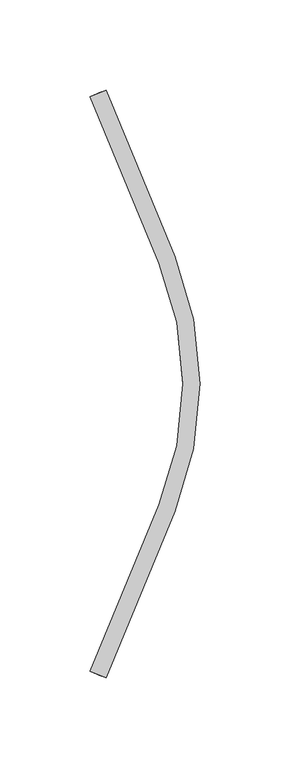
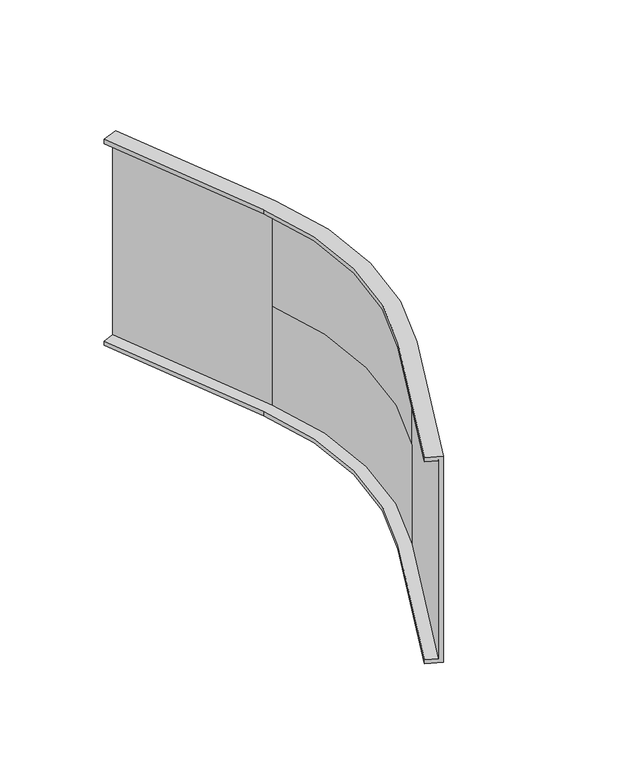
"""IFC4 building model written with IfcOpenShell, lengths in millimetres: cable carrier fitting geometry, CCT_Hyperline_FBTR-ERS45-CVR Крышка на угол 45° внешний (вниз) для оптического лотка : Крышка на угол 45° внешний (вниз) для оптического лотка."""

import ifcopenshell
import ifcopenshell.guid

model = None  # the IFC model being written
_history = None  # IfcOwnerHistory: only IFC2X3 demands one
_inside = {}  # id of a spatial element -> (the spatial element, [elements in it])
_under = {}  # id of a project, library or spatial element -> (it, [spatial elements below it])
_declared = {}  # id of a project -> (the project, [libraries it declares])
_typed = {}  # id of a type object -> (the type object, [elements of that type])
_made_of = {}  # id of a material, layer set ... -> (it, [elements and type objects made of it])


def new_model(schema):
    """Start an empty IFC model of exactly this schema.

    Asked for "IFC4X3", IfcOpenShell would pick the latest addendum, in which some entities
    have other attributes; the version numbers below select the first issue.
    IFC2X3 requires an IfcOwnerHistory on every rooted entity: one is made here for all.
    """
    global model, _history
    if schema == "IFC4X3":
        model = ifcopenshell.file(schema_version=(4, 3, 0, 0))
    else:
        model = ifcopenshell.file(schema=schema)
    _inside.clear()
    _under.clear()
    _declared.clear()
    _typed.clear()
    _made_of.clear()
    _history = None
    if model.schema == "IFC2X3":
        org = make("IfcOrganization", Name="unknown")
        user = make(
            "IfcPersonAndOrganization",
            ThePerson=make("IfcPerson", FamilyName="unknown"),
            TheOrganization=org,
        )
        app = make(
            "IfcApplication",
            ApplicationDeveloper=org,
            Version="unknown",
            ApplicationFullName="unknown",
            ApplicationIdentifier="unknown",
        )
        _history = make(
            "IfcOwnerHistory",
            OwningUser=user,
            OwningApplication=app,
            ChangeAction="ADDED",
            CreationDate=0,
        )
    return model


def make(cls, **values):
    """One entity of the class cls with the attributes given. An attribute that is None is left unset."""
    return model.create_entity(
        cls, **{name: value for name, value in values.items() if value is not None}
    )


def rooted(cls, **values):
    """An entity with a GlobalId (a new one), such as an element, a storey or a relation."""
    return make(cls, GlobalId=ifcopenshell.guid.new(), OwnerHistory=_history, **values)


def si_unit(unit_type, name, prefix=None):
    """IfcSIUnit, for example si_unit("LENGTHUNIT", "METRE", prefix="MILLI")."""
    return make("IfcSIUnit", UnitType=unit_type, Prefix=prefix, Name=name)


def assignment(units):
    """IfcUnitAssignment: the units of a project."""
    return None if units is None else make("IfcUnitAssignment", Units=units)


def point(xyz):
    """IfcCartesianPoint."""
    return None if xyz is None else make("IfcCartesianPoint", Coordinates=xyz)


def direction(xyz):
    """IfcDirection."""
    return None if xyz is None else make("IfcDirection", DirectionRatios=xyz)


def frame(location, z_axis=None, x_axis=None):
    """IfcAxis2Placement3D, a coordinate frame: its origin and axes. An axis left out is left unset."""
    return make(
        "IfcAxis2Placement3D",
        Location=point(location),
        Axis=direction(z_axis),
        RefDirection=direction(x_axis),
    )


def origin():
    """The frame at (0, 0, 0) with its axes left unset."""
    return frame((0.0, 0.0, 0.0))


def place(relative_to, where):
    """IfcLocalPlacement: puts the frame where relative to a parent placement (None: the world)."""
    return make(
        "IfcLocalPlacement", PlacementRelTo=relative_to, RelativePlacement=where
    )


def context(
    kind, dimensions, precision=None, world=None, true_north=None, identifier=None
):
    """IfcGeometricRepresentationContext, for example the 3D "Model" context."""
    return make(
        "IfcGeometricRepresentationContext",
        ContextIdentifier=identifier,
        ContextType=kind,
        CoordinateSpaceDimension=dimensions,
        Precision=precision,
        WorldCoordinateSystem=world,
        TrueNorth=true_north,
    )


def project(units=None, contexts=None):
    """IfcProject with its units and contexts."""
    return rooted(
        "IfcProject",
        Name="project",
        RepresentationContexts=contexts,
        UnitsInContext=assignment(units),
    )


def spatial(cls, under=None, at=None, **own):
    """A site, building, storey or space (cls), placed at a placement, below another one or the project."""
    s = rooted(cls, ObjectPlacement=at, **own)
    if under is not None:
        _under.setdefault(under.id(), (under, []))[1].append(s)
    return s


def polyline(points):
    """IfcPolyline through the points."""
    return make("IfcPolyline", Points=[point(p) for p in points])


def circle_curve(where, radius):
    """IfcCircle in the frame where."""
    return make("IfcCircle", Position=where, Radius=radius)


def shape(context_of_items, identifier, shape_type, items):
    """IfcShapeRepresentation: the items that make up one representation, for example the "Body"."""
    return make(
        "IfcShapeRepresentation",
        ContextOfItems=context_of_items,
        RepresentationIdentifier=identifier,
        RepresentationType=shape_type,
        Items=items,
    )


def source(mapping_origin, context_of_items, identifier, shape_type, items):
    """IfcRepresentationMap: a shape defined once, which mapped items show again and again."""
    return make(
        "IfcRepresentationMap",
        MappingOrigin=mapping_origin,
        MappedRepresentation=shape(context_of_items, identifier, shape_type, items),
    )


def transform(
    local_origin,
    x_axis=None,
    y_axis=None,
    z_axis=None,
    scale=None,
    scale2=None,
    scale3=None,
    uniform=True,
):
    """IfcCartesianTransformationOperator3D, or its non-uniform kind. x_axis, y_axis, z_axis: its Axis1, 2, 3."""
    if uniform:
        return make(
            "IfcCartesianTransformationOperator3D",
            Axis1=direction(x_axis),
            Axis2=direction(y_axis),
            LocalOrigin=point(local_origin),
            Scale=scale,
            Axis3=direction(z_axis),
        )
    return make(
        "IfcCartesianTransformationOperator3DnonUniform",
        Axis1=direction(x_axis),
        Axis2=direction(y_axis),
        LocalOrigin=point(local_origin),
        Scale=scale,
        Axis3=direction(z_axis),
        Scale2=scale2,
        Scale3=scale3,
    )


def mapped(mapping_source, mapping_target):
    """IfcMappedItem: shows the shape of a source again, moved by a transform."""
    return make(
        "IfcMappedItem", MappingSource=mapping_source, MappingTarget=mapping_target
    )


def made_of(thing, what):
    """Note that an element or type object is made of a material, layer set ...; save() writes the relation."""
    if what is not None:
        _made_of.setdefault(what.id(), (what, []))[1].append(thing)
    return thing


def element(
    cls,
    number,
    at=None,
    inside=None,
    cuts=None,
    type_object=None,
    material=None,
    context=None,
    identifier="Body",
    shape_type=None,
    held_by="IfcProductDefinitionShape",
    body=None,
    shapes=None,
    **own,
):
    """One element of the class cls, such as IfcWall. Its Tag is "e" and its number.

    at: its placement. inside: the storey or other place that contains it. cuts: it is an
    opening in that element (IfcRelVoidsElement). A single representation is given by context,
    identifier, shape_type and body (its items); several are given by shapes. held_by: the class
    of the entity that holds the representations. save() writes the other relations.
    """
    e = rooted(cls, Tag="e%d" % number, ObjectPlacement=at, **own)
    if body is not None:
        shapes = [shape(context, identifier, shape_type, body)]
    if shapes is not None:
        e.Representation = make(held_by, Representations=shapes)
    if inside is not None:
        _inside.setdefault(inside.id(), (inside, []))[1].append(e)
    if cuts is not None:
        rooted(
            "IfcRelVoidsElement", RelatingBuildingElement=cuts, RelatedOpeningElement=e
        )
    if type_object is not None:
        _typed.setdefault(type_object.id(), (type_object, []))[1].append(e)
    return made_of(e, material)


def aggregate(whole, parts):
    """IfcRelAggregates: a whole, such as a stair, and the parts it consists of."""
    return rooted("IfcRelAggregates", RelatingObject=whole, RelatedObjects=parts)


def save(model, path):
    """Write the relations noted so far, then the file.

    IfcRelAggregates (storeys below a building ...), IfcRelContainedInSpatialStructure (elements
    in a storey), IfcRelDefinesByType, IfcRelAssociatesMaterial and IfcRelDeclares: one each for
    every whole, place, type object, material and project.
    """
    for whole, parts in _under.values():
        aggregate(whole, parts)
    for where, things in _inside.values():
        rooted(
            "IfcRelContainedInSpatialStructure",
            RelatedElements=things,
            RelatingStructure=where,
        )
    for kind, things in _typed.values():
        rooted("IfcRelDefinesByType", RelatedObjects=things, RelatingType=kind)
    for what, things in _made_of.values():
        rooted("IfcRelAssociatesMaterial", RelatedObjects=things, RelatingMaterial=what)
    for by, libraries in _declared.values():
        rooted("IfcRelDeclares", RelatingContext=by, RelatedDefinitions=libraries)
    model.write(path)


def plane_surface(at):
    """IfcPlane: the flat surface through the origin of the frame at, square to its z axis."""
    return make("IfcPlane", Position=at)


def cylinder_surface(at, radius):
    """IfcCylindricalSurface: all points at the distance radius from the z axis of the frame at."""
    return make("IfcCylindricalSurface", Position=at, Radius=radius)


def revolved_surface(curve, axis_point, axis_direction):
    """IfcSurfaceOfRevolution: the curve turned about the line through axis_point along axis_direction."""
    return make(
        "IfcSurfaceOfRevolution",
        SweptCurve=make("IfcArbitraryOpenProfileDef", ProfileType="CURVE", Curve=curve),
        AxisPosition=make("IfcAxis1Placement", Location=point(axis_point), Axis=direction(axis_direction)),
    )


def advanced_brep(points, edges, surfaces, faces):
    """IfcAdvancedBrep: a solid bounded by faces that lie on surfaces and meet in shared edges.

    An edge is (start, end): straight between two places in points (the first is 0);
    or (start, end, curve); or (start, end, curve, False) where it runs against its curve.
    A face is (place in surfaces, loops), or (place, loops, False) where it looks against
    its surface's normal. A loop lists edges by number (the first is 1), with a minus sign
    where the edge is run from its end to its start. The first loop is the outer one.
    """
    corners = [point(p) for p in points]
    vertices = [make("IfcVertexPoint", VertexGeometry=c) for c in corners]
    made = []
    for start, end, *more in edges:
        made.append(
            make(
                "IfcEdgeCurve",
                EdgeStart=vertices[start],
                EdgeEnd=vertices[end],
                EdgeGeometry=more[0] if more else make("IfcPolyline", Points=[corners[start], corners[end]]),
                SameSense=more[1] if len(more) > 1 else True,
            )
        )
    hull = []
    for where, loops, *sense in faces:
        bounds = []
        for j, loop in enumerate(loops):
            ring = [make("IfcOrientedEdge", EdgeElement=made[abs(k) - 1], Orientation=k > 0) for k in loop]
            bounds.append(
                make(
                    "IfcFaceOuterBound" if j == 0 else "IfcFaceBound",
                    Bound=make("IfcEdgeLoop", EdgeList=ring),
                    Orientation=True,
                )
            )
        hull.append(make("IfcAdvancedFace", Bounds=bounds, FaceSurface=surfaces[where], SameSense=sense[0] if sense else True))
    return make("IfcAdvancedBrep", Outer=make("IfcClosedShell", CfsFaces=hull))


def cable_carrier_fitting_9f29c945(model_context):
    return source(origin(), model_context, "Body", "AdvancedBrep", [
        advanced_brep(
        [(106.4671567, 150.6353776, 60.0), (100.0, 147.9565936, 60.0), (100.0, 147.9565936, 62.54), (108.8138107, 151.6073935, 62.54), (108.8138107, 151.6073935, -62.54), (100.0, 147.9565936, -62.54), (100.0, 147.9565936, -60.0), (106.4671567, 150.6353776, -60.0), (138.2683432, 55.5686403, -60.0), (138.2683432, -78.370561, -60.0), (100.0, -170.7585143, -60.0), (106.4671567, -173.4372983, -60.0), (144.7355, -81.049345, -60.0), (144.7355, 58.2474243, -60.0), (138.2683432, 55.5686403, -62.54), (147.082154, 59.2194402, -62.54), (147.082154, -82.021361, -62.54), (108.8138107, -174.4093142, -62.54), (100.0, -170.7585143, -62.54), (138.2683432, -78.370561, -62.54), (147.082154, 59.2194402, 62.54), (147.082154, 59.2194402, 0.0), (144.7355, 58.2474243, 0.0), (144.7355, 58.2474243, 60.0), (147.082154, -82.021361, 0.0), (144.7355, -81.049345, 0.0), (108.8138107, -174.4093142, 62.54), (100.0, -170.7585143, 62.54), (100.0, -170.7585143, 60.0), (106.4671567, -173.4372983, 60.0), (147.082154, -82.021361, 62.54), (144.7355, -81.049345, 60.0), (138.2683432, -78.370561, 60.0), (138.2683432, 55.5686403, 60.0), (138.2683432, 55.5686403, 62.54), (138.2683432, -78.370561, 62.54)],
        [
            (0, 1),
            (1, 2),
            (2, 3),
            (3, 4),
            (4, 5),
            (5, 6),
            (6, 7),
            (7, 0),
            (6, 8),
            (8, 9, circle_curve(frame((-23.410575, -11.4009604, -60.0), z_axis=(0.0, 0.0, -1.0), x_axis=(0.9238795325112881, 0.38268343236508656, 0.0)), 175.0)),
            (9, 10),
            (10, 11),
            (11, 12),
            (12, 13, circle_curve(frame((-23.410575, -11.4009604, -60.0), z_axis=(0.0, 0.0, 1.0), x_axis=(0.9238795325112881, 0.38268343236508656, 0.0)), 182.0)),
            (13, 7),
            (5, 14),
            (14, 8),
            (4, 15),
            (15, 16, circle_curve(frame((-23.410575, -11.4009604, -62.54), z_axis=(0.0, 0.0, -1.0), x_axis=(0.9238795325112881, 0.38268343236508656, 0.0)), 184.54)),
            (16, 17),
            (17, 18),
            (18, 19),
            (19, 14, circle_curve(frame((-23.410575, -11.4009604, -62.54), z_axis=(0.0, 0.0, 1.0), x_axis=(0.9238795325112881, 0.38268343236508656, 0.0)), 175.0)),
            (3, 20),
            (20, 21),
            (21, 15),
            (13, 22),
            (22, 23),
            (23, 0),
            (19, 9),
            (21, 24, circle_curve(frame((-23.410575, -11.4009604, 0.0), z_axis=(0.0, 0.0, -1.0), x_axis=(0.9238795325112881, 0.38268343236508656, 0.0)), 184.54)),
            (24, 16),
            (12, 25),
            (25, 22, circle_curve(frame((-23.410575, -11.4009604, 0.0), z_axis=(0.0, 0.0, 1.0), x_axis=(0.9238795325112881, 0.38268343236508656, 0.0)), 182.0)),
            (10, 18),
            (17, 26),
            (26, 27),
            (27, 28),
            (28, 29),
            (29, 11),
            (24, 30),
            (30, 26),
            (29, 31),
            (31, 25),
            (23, 31, circle_curve(frame((-23.410575, -11.4009604, 60.0), z_axis=(0.0, 0.0, -1.0), x_axis=(0.9238795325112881, 0.3826834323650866, 0.0)), 182.0)),
            (28, 32),
            (32, 33, circle_curve(frame((-23.410575, -11.4009604, 60.0), z_axis=(0.0, 0.0, 1.0), x_axis=(0.9238795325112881, 0.3826834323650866, 0.0)), 175.0)),
            (33, 1),
            (33, 34),
            (34, 2),
            (34, 35, circle_curve(frame((-23.410575, -11.4009604, 62.54), z_axis=(0.0, 0.0, -1.0), x_axis=(0.9238795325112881, 0.3826834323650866, 0.0)), 175.0)),
            (35, 27),
            (30, 20, circle_curve(frame((-23.410575, -11.4009604, 62.54), z_axis=(0.0, 0.0, 1.0), x_axis=(0.9238795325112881, 0.3826834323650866, 0.0)), 184.54)),
            (32, 35),
        ],
        [
            plane_surface(frame((104.6193977, 149.8700107, -55.0), z_axis=(-0.38268343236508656, 0.9238795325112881, 0.0), x_axis=(0.0, 0.0, 1.0))),
            plane_surface(frame((100.0, 147.9565936, -60.0), z_axis=(0.0, 0.0, 1.0), x_axis=(0.38268343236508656, -0.9238795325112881, 0.0))),
            plane_surface(frame((100.0, 147.9565936, -62.54), z_axis=(-0.9238795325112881, -0.38268343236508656, 0.0), x_axis=(0.38268343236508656, -0.9238795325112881, 0.0))),
            plane_surface(frame((108.8138107, 151.6073935, -62.54), z_axis=(0.0, 0.0, -1.0), x_axis=(0.38268343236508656, -0.9238795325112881, 0.0))),
            plane_surface(frame((108.8138107, 151.6073935, 0.0), z_axis=(0.9238795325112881, 0.38268343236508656, 0.0), x_axis=(0.38268343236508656, -0.9238795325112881, 0.0))),
            plane_surface(frame((106.4671567, 150.6353776, -60.0), z_axis=(-0.9238795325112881, -0.38268343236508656, 0.0), x_axis=(0.38268343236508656, -0.9238795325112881, 0.0))),
            revolved_surface(polyline([(138.26834318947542, 55.568640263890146, -62.54), (138.26834318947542, 55.568640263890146, -60.0)]), (-23.410575, -11.4009604, -55.0), (0.0, 0.0, -1.0)),
            cylinder_surface(frame((-23.410575, -11.4009604, -55.0), z_axis=(0.0, 0.0, -1.0), x_axis=(0.9238795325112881, 0.38268343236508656, 0.0)), 184.54),
            revolved_surface(polyline([(144.73549991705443, 58.24742429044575, -60.0), (144.73549991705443, 58.24742429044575, 0.0)]), (-23.410575, -11.4009604, -55.0), (0.0, 0.0, -1.0)),
            plane_surface(frame((104.6193977, -172.6719314, -55.0), z_axis=(-0.3826834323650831, -0.9238795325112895, 0.0), x_axis=(0.0, 0.0, 1.0))),
            plane_surface(frame((138.2683432, -78.370561, -62.54), z_axis=(-0.9238795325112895, 0.3826834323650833, 0.0), x_axis=(-0.3826834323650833, -0.9238795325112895, 0.0))),
            plane_surface(frame((147.082154, -82.021361, 0.0), z_axis=(0.9238795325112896, -0.382683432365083, 0.0), x_axis=(-0.382683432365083, -0.9238795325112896, 0.0))),
            plane_surface(frame((144.7355, -81.049345, -60.0), z_axis=(-0.9238795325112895, 0.3826834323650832, 0.0), x_axis=(-0.3826834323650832, -0.9238795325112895, 0.0))),
            plane_surface(frame((106.4671567, 150.6353776, 60.0), z_axis=(0.0, 0.0, -1.0), x_axis=(0.38268343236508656, -0.9238795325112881, 0.0))),
            plane_surface(frame((100.0, 147.9565936, 60.0), z_axis=(-0.9238795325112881, -0.38268343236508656, 0.0), x_axis=(0.38268343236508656, -0.9238795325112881, 0.0))),
            plane_surface(frame((100.0, 147.9565936, 62.54), z_axis=(0.0, 0.0, 1.0), x_axis=(0.38268343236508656, -0.9238795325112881, 0.0))),
            revolved_surface(polyline([(138.26834318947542, 55.56864026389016, 60.0), (138.26834318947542, 55.56864026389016, 62.54)]), (-23.410575, -11.4009604, 55.0), (0.0, 0.0, -1.0)),
            cylinder_surface(frame((-23.410575, -11.4009604, 55.0), z_axis=(0.0, 0.0, -1.0), x_axis=(0.9238795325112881, 0.3826834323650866, 0.0)), 184.54),
            revolved_surface(polyline([(144.73549991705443, 58.247424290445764, 0.0), (144.73549991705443, 58.247424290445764, 60.0)]), (-23.410575, -11.4009604, 55.0), (0.0, 0.0, -1.0)),
            plane_surface(frame((138.2683432, -78.370561, 60.0), z_axis=(-0.9238795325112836, 0.38268343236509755, 0.0), x_axis=(-0.38268343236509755, -0.9238795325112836, 0.0))),
        ],
        [
            (0, [[1, 2, 3, 4, 5, 6, 7, 8]]),
            (1, [[-7, 9, 10, 11, 12, 13, 14, 15]]),
            (2, [[-6, 16, 17, -9]]),
            (3, [[-5, 18, 19, 20, 21, 22, 23, -16]]),
            (4, [[-4, 24, 25, 26, -18]]),
            (5, [[-8, -15, 27, 28, 29]]),
            (6, [[-10, -17, -23, 30]]),
            (7, [[-19, -26, 31, 32]]),
            (8, [[-14, 33, 34, -27]]),
            (9, [[-12, 35, -21, 36, 37, 38, 39, 40]]),
            (10, [[-11, -30, -22, -35]]),
            (11, [[-36, -20, -32, 41, 42]]),
            (12, [[-13, -40, 43, 44, -33]]),
            (13, [[-1, -29, 45, -43, -39, 46, 47, 48]]),
            (14, [[-2, -48, 49, 50]]),
            (15, [[-3, -50, 51, 52, -37, -42, 53, -24]]),
            (16, [[-47, 54, -51, -49]]),
            (17, [[-53, -41, -31, -25]]),
            (18, [[-45, -28, -34, -44]]),
            (19, [[-46, -38, -52, -54]]),
        ],
    ),
    ])


if __name__ == "__main__":
    model = new_model("IFC4")
    model_context = context("Model", 3, world=origin())
    ifc_project = project(units=[si_unit("LENGTHUNIT", "METRE", prefix="MILLI")], contexts=[model_context])
    site = spatial("IfcSite", under=ifc_project)
    building = spatial("IfcBuilding", under=site)
    placement = place(None, origin())
    cable_carrier_fitting_shape = cable_carrier_fitting_9f29c945(model_context)
    element("IfcCableCarrierFitting", 1, ObjectType="CCT_Hyperline_FBTR-ERS45-CVR Крышка на угол 45° внешний (вниз) для оптического лотка : Крышка на угол 45° внешний (вниз) для оптического лотка", at=placement, inside=building, context=model_context, shape_type="MappedRepresentation", body=[
        mapped(cable_carrier_fitting_shape, transform((0.0, 0.0, 0.0), x_axis=(1.0, 0.0, 0.0), y_axis=(0.0, 1.0, 0.0), z_axis=(0.0, 0.0, 1.0))),
    ])
    save(model, "model.ifc")
